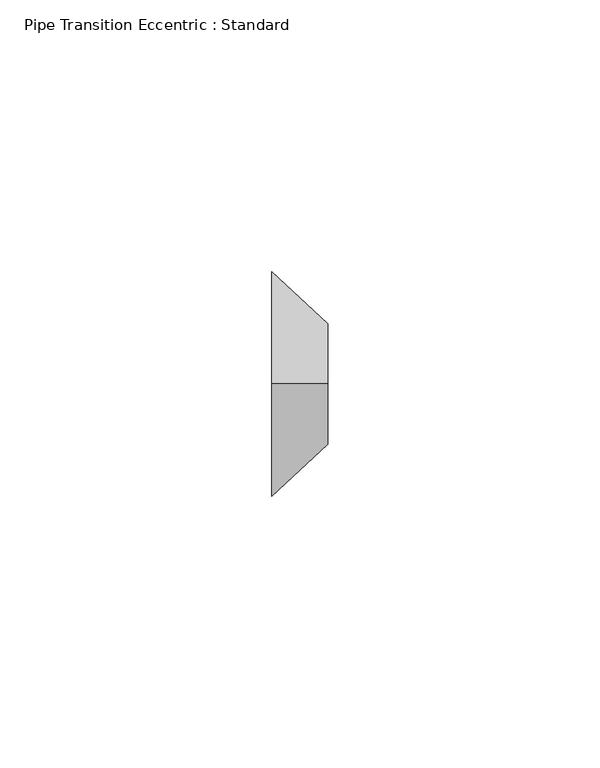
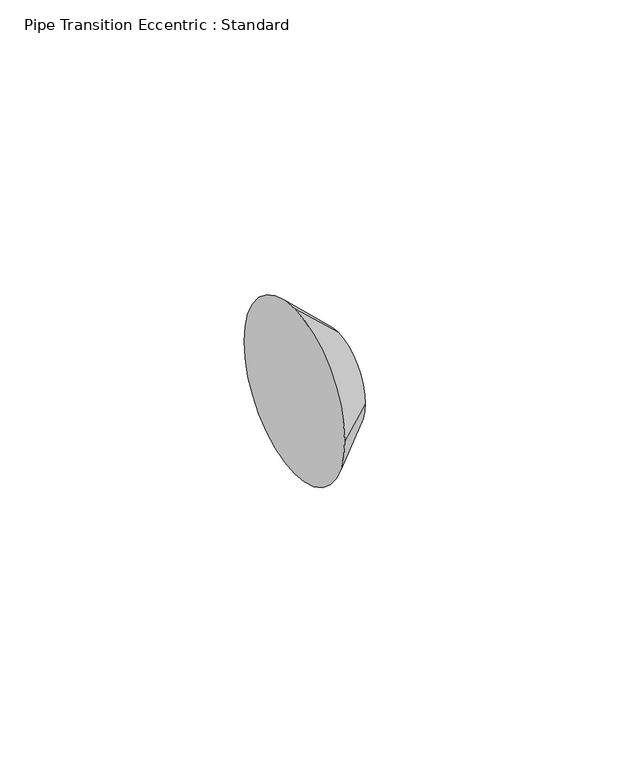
"""IFC4 building model written with IfcOpenShell, lengths in millimetres: pipe fitting geometry, Pipe Transition Eccentric : Standard."""

from ifc_helpers import new_model, si_unit, frame, origin, place, context, project, spatial, polyline, circle_curve, source, transform, mapped, element, save
from ifc_brep_helpers import plane_surface, revolved_surface, advanced_brep


def pipe_transition_eccentric_standard_2cb20447(model_context):
    return source(origin(), model_context, "Body", "AdvancedBrep", [
        advanced_brep(
        [(10.31875, 0.0, 11.1125), (10.31875, -11.1125, 0.0), (10.31875, 0.0, -11.1125), (10.31875, 11.1125, 0.0), (0.0, 0.0, 20.6375), (0.0, 20.6375, 0.0), (0.0, 0.0, -20.6375), (0.0, -20.6375, 0.0)],
        [
            (0, 1, circle_curve(frame((10.31875, 0.0, 0.0), z_axis=(1.0, 0.0, 0.0), x_axis=(0.0, 0.0, 1.0)), 11.1125)),
            (1, 2, circle_curve(frame((10.31875, 0.0, 0.0), z_axis=(1.0, 0.0, 0.0), x_axis=(0.0, -1.0, 0.0)), 11.1125)),
            (2, 3, circle_curve(frame((10.31875, 0.0, 0.0), z_axis=(1.0, 0.0, 0.0), x_axis=(0.0, 0.0, -1.0)), 11.1125)),
            (3, 0, circle_curve(frame((10.31875, 0.0, 0.0), z_axis=(1.0, 0.0, 0.0), x_axis=(0.0, 1.0, 0.0)), 11.1125)),
            (4, 5, circle_curve(frame((0.0, 0.0, 0.0), z_axis=(-1.0, 0.0, 0.0), x_axis=(0.0, 1.0, 0.0)), 20.6375)),
            (5, 6, circle_curve(frame((0.0, 0.0, 0.0), z_axis=(-1.0, 0.0, 0.0), x_axis=(0.0, 0.0, -1.0)), 20.6375)),
            (6, 7, circle_curve(frame((0.0, 0.0, 0.0), z_axis=(-1.0, 0.0, 0.0), x_axis=(0.0, -1.0, 0.0)), 20.6375)),
            (7, 4, circle_curve(frame((0.0, 0.0, 0.0), z_axis=(-1.0, 0.0, 0.0), x_axis=(0.0, 0.0, 1.0)), 20.6375)),
            (7, 1),
            (0, 4),
            (6, 2),
            (5, 3),
        ],
        [
            plane_surface(frame((10.31875, 0.0, 0.0), z_axis=(1.0, 0.0, 0.0), x_axis=(0.0, -1.0, 0.0))),
            plane_surface(frame((0.0, 0.0, 0.0), z_axis=(-1.0, 0.0, 0.0), x_axis=(0.0, -1.0, 0.0))),
            revolved_surface(polyline([(10.31875, 0.0, 11.112500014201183), (0.0, 0.0, 20.6375)]), (22.3572917, 0.0, 0.0), (-1.0, 0.0, 0.0)),
            revolved_surface(polyline([(10.31875, -11.112500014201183, 0.0), (0.0, -20.6375, 0.0)]), (22.3572917, 0.0, 0.0), (-1.0, 0.0, 0.0)),
            revolved_surface(polyline([(10.31875, 0.0, -11.112500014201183), (0.0, 0.0, -20.6375)]), (22.3572917, 0.0, 0.0), (-1.0, 0.0, 0.0)),
            revolved_surface(polyline([(10.31875, 11.112500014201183, 0.0), (0.0, 20.6375, 0.0)]), (22.3572917, 0.0, 0.0), (-1.0, 0.0, 0.0)),
        ],
        [
            (0, [[1, 2, 3, 4]]),
            (1, [[5, 6, 7, 8]]),
            (2, [[-8, 9, -1, 10]]),
            (3, [[-7, 11, -2, -9]]),
            (4, [[-6, 12, -3, -11]]),
            (5, [[-5, -10, -4, -12]]),
        ],
    ),
        advanced_brep(
        [(10.31875, 0.0, 11.1125), (10.31875, -11.1125, 0.0), (10.31875, 0.0, -11.1125), (10.31875, 11.1125, 0.0), (0.0, 0.0, 20.6375), (0.0, 20.6375, 0.0), (0.0, 0.0, -20.6375), (0.0, -20.6375, 0.0)],
        [
            (0, 1, circle_curve(frame((10.31875, 0.0, 0.0), z_axis=(1.0, 0.0, 0.0), x_axis=(0.0, 0.0, 1.0)), 11.1125)),
            (1, 2, circle_curve(frame((10.31875, 0.0, 0.0), z_axis=(1.0, 0.0, 0.0), x_axis=(0.0, -1.0, 0.0)), 11.1125)),
            (2, 3, circle_curve(frame((10.31875, 0.0, 0.0), z_axis=(1.0, 0.0, -1.2984464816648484e-12), x_axis=(-1.2984899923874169e-12, 0.0, -1.0)), 11.1125)),
            (3, 0, circle_curve(frame((10.31875, 0.0, 0.0), z_axis=(1.0, 0.0, 0.0), x_axis=(0.0, 1.0, 0.0)), 11.1125)),
            (4, 5, circle_curve(frame((0.0, 0.0, 0.0), z_axis=(-1.0, 0.0, 0.0), x_axis=(0.0, 1.0, 0.0)), 20.6375)),
            (5, 6, circle_curve(frame((0.0, 0.0, 0.0), z_axis=(-1.0, 0.0, 1.2984464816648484e-12), x_axis=(-1.2984899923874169e-12, 0.0, -1.0)), 20.6375)),
            (6, 7, circle_curve(frame((0.0, 0.0, 0.0), z_axis=(-1.0, 0.0, 0.0), x_axis=(0.0, -1.0, 0.0)), 20.6375)),
            (7, 4, circle_curve(frame((0.0, 0.0, 0.0), z_axis=(-1.0, 0.0, 0.0), x_axis=(0.0, 0.0, 1.0)), 20.6375)),
            (7, 1),
            (0, 4),
            (6, 2),
            (5, 3),
        ],
        [
            plane_surface(frame((10.31875, 0.0, 0.0), z_axis=(1.0, 0.0, 0.0), x_axis=(0.0, -1.0, 0.0))),
            plane_surface(frame((0.0, 0.0, 0.0), z_axis=(-1.0, 0.0, 0.0), x_axis=(0.0, -1.0, 0.0))),
            revolved_surface(polyline([(10.31875, 0.0, 11.112500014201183), (0.0, 0.0, 20.6375)]), (22.3572917, 0.0, 0.0), (-1.0, 0.0, 0.0)),
            revolved_surface(polyline([(10.31875, -11.112500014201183, 0.0), (0.0, -20.6375, 0.0)]), (22.3572917, 0.0, 0.0), (-1.0, 0.0, 0.0)),
            revolved_surface(polyline([(10.31875, 0.0, -11.112500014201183), (-2.679811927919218e-11, 0.0, -20.637500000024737)]), (22.3572917, 0.0, 0.0), (-1.0, 0.0, 1.2984464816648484e-12)),
            revolved_surface(polyline([(10.31875, 11.112500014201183, 0.0), (0.0, 20.6375, 0.0)]), (22.3572917, 0.0, 0.0), (-1.0, 0.0, 0.0)),
        ],
        [
            (0, [[1, 2, 3, 4]]),
            (1, [[5, 6, 7, 8]]),
            (2, [[-8, 9, -1, 10]]),
            (3, [[-7, 11, -2, -9]]),
            (4, [[-6, 12, -3, -11]]),
            (5, [[-5, -10, -4, -12]]),
        ],
    ),
    ])


if __name__ == "__main__":
    model = new_model("IFC4")
    model_context = context("Model", 3, world=origin())
    ifc_project = project(units=[si_unit("LENGTHUNIT", "METRE", prefix="MILLI")], contexts=[model_context])
    site = spatial("IfcSite", under=ifc_project)
    building = spatial("IfcBuilding", under=site)
    placement = place(None, origin())
    pipe_transition_eccentric_standard_shape = pipe_transition_eccentric_standard_2cb20447(model_context)
    element("IfcPipeFitting", 1, ObjectType="Pipe Transition Eccentric : Standard", at=placement, inside=building, context=model_context, shape_type="MappedRepresentation", body=[
        mapped(pipe_transition_eccentric_standard_shape, transform((0.0, 0.0, 0.0), x_axis=(1.0, 0.0, 0.0), y_axis=(0.0, 1.0, 0.0), z_axis=(0.0, 0.0, 1.0))),
    ])
    save(model, "model.ifc")
